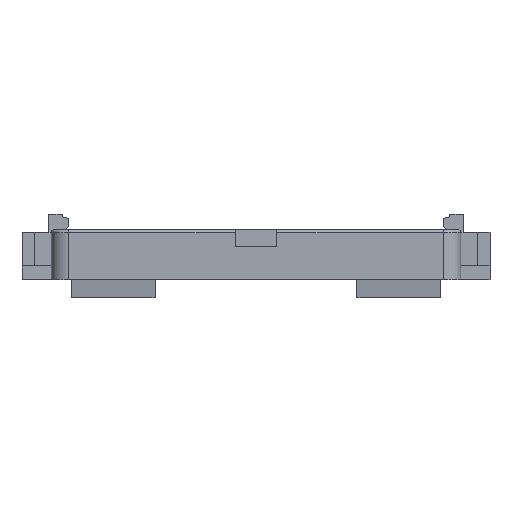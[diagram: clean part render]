
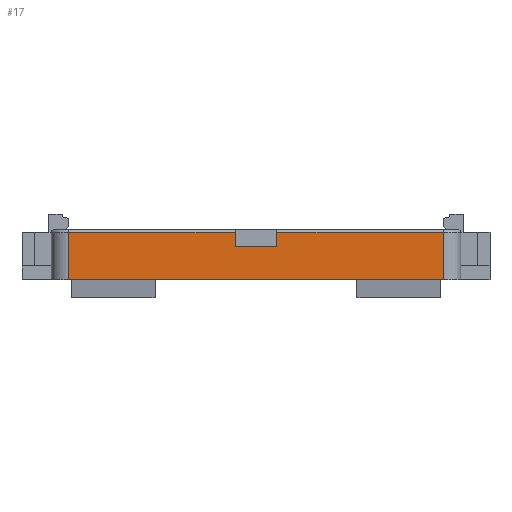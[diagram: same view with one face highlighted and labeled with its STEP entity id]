
A CAD part, left-side view. The second image highlights one B-rep face of the part: STEP entity #17.
In plain terms, the highlighted planar face has unit normal (-1, 0, 0).
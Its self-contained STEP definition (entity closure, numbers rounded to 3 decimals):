
#17 = ADVANCED_FACE('',(#18),#32,.F.);
#18 = FACE_BOUND('',#19,.F.);
#19 = EDGE_LOOP('',(#20,#55,#83,#111,#139,#167,#195,#223));
#20 = ORIENTED_EDGE('',*,*,#21,.F.);
#21 = EDGE_CURVE('',#22,#24,#26,.T.);
#22 = VERTEX_POINT('',#23);
#23 = CARTESIAN_POINT('',(-29.4,-26.9,6.8));
#24 = VERTEX_POINT('',#25);
#25 = CARTESIAN_POINT('',(-29.4,-3.,6.8));
#26 = SURFACE_CURVE('',#27,(#31,#43),.PCURVE_S1.);
#27 = LINE('',#28,#29);
#28 = CARTESIAN_POINT('',(-29.4,-26.9,6.8));
#29 = VECTOR('',#30,1.);
#30 = DIRECTION('',(0.,1.,0.));
#31 = PCURVE('',#32,#37);
#32 = PLANE('',#33);
#33 = AXIS2_PLACEMENT_3D('',#34,#35,#36);
#34 = CARTESIAN_POINT('',(-29.4,-29.4,0.));
#35 = DIRECTION('',(1.,0.,0.));
#36 = DIRECTION('',(0.,0.,1.));
#37 = DEFINITIONAL_REPRESENTATION('',(#38),#42);
#38 = LINE('',#39,#40);
#39 = CARTESIAN_POINT('',(6.8,-2.5));
#40 = VECTOR('',#41,1.);
#41 = DIRECTION('',(0.,-1.));
#42 = ( GEOMETRIC_REPRESENTATION_CONTEXT(2) 
PARAMETRIC_REPRESENTATION_CONTEXT() REPRESENTATION_CONTEXT('2D SPACE',''
  ) );
#43 = PCURVE('',#44,#49);
#44 = CYLINDRICAL_SURFACE('',#45,0.4);
#45 = AXIS2_PLACEMENT_3D('',#46,#47,#48);
#46 = CARTESIAN_POINT('',(-29.,-26.9,6.8));
#47 = DIRECTION('',(0.,1.,0.));
#48 = DIRECTION('',(-1.,0.,0.));
#49 = DEFINITIONAL_REPRESENTATION('',(#50),#54);
#50 = LINE('',#51,#52);
#51 = CARTESIAN_POINT('',(0.,0.));
#52 = VECTOR('',#53,1.);
#53 = DIRECTION('',(0.,1.));
#54 = ( GEOMETRIC_REPRESENTATION_CONTEXT(2) 
PARAMETRIC_REPRESENTATION_CONTEXT() REPRESENTATION_CONTEXT('2D SPACE',''
  ) );
#55 = ORIENTED_EDGE('',*,*,#56,.F.);
#56 = EDGE_CURVE('',#57,#22,#59,.T.);
#57 = VERTEX_POINT('',#58);
#58 = CARTESIAN_POINT('',(-29.4,-26.9,0.));
#59 = SURFACE_CURVE('',#60,(#64,#71),.PCURVE_S1.);
#60 = LINE('',#61,#62);
#61 = CARTESIAN_POINT('',(-29.4,-26.9,0.));
#62 = VECTOR('',#63,1.);
#63 = DIRECTION('',(0.,0.,1.));
#64 = PCURVE('',#32,#65);
#65 = DEFINITIONAL_REPRESENTATION('',(#66),#70);
#66 = LINE('',#67,#68);
#67 = CARTESIAN_POINT('',(0.,-2.5));
#68 = VECTOR('',#69,1.);
#69 = DIRECTION('',(1.,0.));
#70 = ( GEOMETRIC_REPRESENTATION_CONTEXT(2) 
PARAMETRIC_REPRESENTATION_CONTEXT() REPRESENTATION_CONTEXT('2D SPACE',''
  ) );
#71 = PCURVE('',#72,#77);
#72 = CYLINDRICAL_SURFACE('',#73,2.5);
#73 = AXIS2_PLACEMENT_3D('',#74,#75,#76);
#74 = CARTESIAN_POINT('',(-26.9,-26.9,0.));
#75 = DIRECTION('',(0.,0.,1.));
#76 = DIRECTION('',(-1.,0.,0.));
#77 = DEFINITIONAL_REPRESENTATION('',(#78),#82);
#78 = LINE('',#79,#80);
#79 = CARTESIAN_POINT('',(0.,0.));
#80 = VECTOR('',#81,1.);
#81 = DIRECTION('',(0.,1.));
#82 = ( GEOMETRIC_REPRESENTATION_CONTEXT(2) 
PARAMETRIC_REPRESENTATION_CONTEXT() REPRESENTATION_CONTEXT('2D SPACE',''
  ) );
#83 = ORIENTED_EDGE('',*,*,#84,.T.);
#84 = EDGE_CURVE('',#57,#85,#87,.T.);
#85 = VERTEX_POINT('',#86);
#86 = CARTESIAN_POINT('',(-29.4,26.9,0.));
#87 = SURFACE_CURVE('',#88,(#92,#99),.PCURVE_S1.);
#88 = LINE('',#89,#90);
#89 = CARTESIAN_POINT('',(-29.4,-29.4,0.));
#90 = VECTOR('',#91,1.);
#91 = DIRECTION('',(0.,1.,0.));
#92 = PCURVE('',#32,#93);
#93 = DEFINITIONAL_REPRESENTATION('',(#94),#98);
#94 = LINE('',#95,#96);
#95 = CARTESIAN_POINT('',(0.,0.));
#96 = VECTOR('',#97,1.);
#97 = DIRECTION('',(0.,-1.));
#98 = ( GEOMETRIC_REPRESENTATION_CONTEXT(2) 
PARAMETRIC_REPRESENTATION_CONTEXT() REPRESENTATION_CONTEXT('2D SPACE',''
  ) );
#99 = PCURVE('',#100,#105);
#100 = PLANE('',#101);
#101 = AXIS2_PLACEMENT_3D('',#102,#103,#104);
#102 = CARTESIAN_POINT('',(-29.4,-29.4,0.));
#103 = DIRECTION('',(0.,0.,1.));
#104 = DIRECTION('',(1.,0.,0.));
#105 = DEFINITIONAL_REPRESENTATION('',(#106),#110);
#106 = LINE('',#107,#108);
#107 = CARTESIAN_POINT('',(0.,0.));
#108 = VECTOR('',#109,1.);
#109 = DIRECTION('',(0.,1.));
#110 = ( GEOMETRIC_REPRESENTATION_CONTEXT(2) 
PARAMETRIC_REPRESENTATION_CONTEXT() REPRESENTATION_CONTEXT('2D SPACE',''
  ) );
#111 = ORIENTED_EDGE('',*,*,#112,.T.);
#112 = EDGE_CURVE('',#85,#113,#115,.T.);
#113 = VERTEX_POINT('',#114);
#114 = CARTESIAN_POINT('',(-29.4,26.9,6.8));
#115 = SURFACE_CURVE('',#116,(#120,#127),.PCURVE_S1.);
#116 = LINE('',#117,#118);
#117 = CARTESIAN_POINT('',(-29.4,26.9,0.));
#118 = VECTOR('',#119,1.);
#119 = DIRECTION('',(0.,0.,1.));
#120 = PCURVE('',#32,#121);
#121 = DEFINITIONAL_REPRESENTATION('',(#122),#126);
#122 = LINE('',#123,#124);
#123 = CARTESIAN_POINT('',(0.,-56.3));
#124 = VECTOR('',#125,1.);
#125 = DIRECTION('',(1.,0.));
#126 = ( GEOMETRIC_REPRESENTATION_CONTEXT(2) 
PARAMETRIC_REPRESENTATION_CONTEXT() REPRESENTATION_CONTEXT('2D SPACE',''
  ) );
#127 = PCURVE('',#128,#133);
#128 = CYLINDRICAL_SURFACE('',#129,2.5);
#129 = AXIS2_PLACEMENT_3D('',#130,#131,#132);
#130 = CARTESIAN_POINT('',(-26.9,26.9,0.));
#131 = DIRECTION('',(0.,0.,1.));
#132 = DIRECTION('',(-1.,0.,0.));
#133 = DEFINITIONAL_REPRESENTATION('',(#134),#138);
#134 = LINE('',#135,#136);
#135 = CARTESIAN_POINT('',(6.283,0.));
#136 = VECTOR('',#137,1.);
#137 = DIRECTION('',(-0.,1.));
#138 = ( GEOMETRIC_REPRESENTATION_CONTEXT(2) 
PARAMETRIC_REPRESENTATION_CONTEXT() REPRESENTATION_CONTEXT('2D SPACE',''
  ) );
#139 = ORIENTED_EDGE('',*,*,#140,.F.);
#140 = EDGE_CURVE('',#141,#113,#143,.T.);
#141 = VERTEX_POINT('',#142);
#142 = CARTESIAN_POINT('',(-29.4,3.,6.8));
#143 = SURFACE_CURVE('',#144,(#148,#155),.PCURVE_S1.);
#144 = LINE('',#145,#146);
#145 = CARTESIAN_POINT('',(-29.4,-26.9,6.8));
#146 = VECTOR('',#147,1.);
#147 = DIRECTION('',(0.,1.,0.));
#148 = PCURVE('',#32,#149);
#149 = DEFINITIONAL_REPRESENTATION('',(#150),#154);
#150 = LINE('',#151,#152);
#151 = CARTESIAN_POINT('',(6.8,-2.5));
#152 = VECTOR('',#153,1.);
#153 = DIRECTION('',(0.,-1.));
#154 = ( GEOMETRIC_REPRESENTATION_CONTEXT(2) 
PARAMETRIC_REPRESENTATION_CONTEXT() REPRESENTATION_CONTEXT('2D SPACE',''
  ) );
#155 = PCURVE('',#156,#161);
#156 = CYLINDRICAL_SURFACE('',#157,0.4);
#157 = AXIS2_PLACEMENT_3D('',#158,#159,#160);
#158 = CARTESIAN_POINT('',(-29.,-26.9,6.8));
#159 = DIRECTION('',(0.,1.,0.));
#160 = DIRECTION('',(-1.,0.,0.));
#161 = DEFINITIONAL_REPRESENTATION('',(#162),#166);
#162 = LINE('',#163,#164);
#163 = CARTESIAN_POINT('',(0.,0.));
#164 = VECTOR('',#165,1.);
#165 = DIRECTION('',(0.,1.));
#166 = ( GEOMETRIC_REPRESENTATION_CONTEXT(2) 
PARAMETRIC_REPRESENTATION_CONTEXT() REPRESENTATION_CONTEXT('2D SPACE',''
  ) );
#167 = ORIENTED_EDGE('',*,*,#168,.F.);
#168 = EDGE_CURVE('',#169,#141,#171,.T.);
#169 = VERTEX_POINT('',#170);
#170 = CARTESIAN_POINT('',(-29.4,3.,4.8));
#171 = SURFACE_CURVE('',#172,(#176,#183),.PCURVE_S1.);
#172 = LINE('',#173,#174);
#173 = CARTESIAN_POINT('',(-29.4,3.,2.4));
#174 = VECTOR('',#175,1.);
#175 = DIRECTION('',(0.,0.,1.));
#176 = PCURVE('',#32,#177);
#177 = DEFINITIONAL_REPRESENTATION('',(#178),#182);
#178 = LINE('',#179,#180);
#179 = CARTESIAN_POINT('',(2.4,-32.4));
#180 = VECTOR('',#181,1.);
#181 = DIRECTION('',(1.,0.));
#182 = ( GEOMETRIC_REPRESENTATION_CONTEXT(2) 
PARAMETRIC_REPRESENTATION_CONTEXT() REPRESENTATION_CONTEXT('2D SPACE',''
  ) );
#183 = PCURVE('',#184,#189);
#184 = PLANE('',#185);
#185 = AXIS2_PLACEMENT_3D('',#186,#187,#188);
#186 = CARTESIAN_POINT('',(-30.4,3.,4.8));
#187 = DIRECTION('',(0.,1.,0.));
#188 = DIRECTION('',(0.,0.,1.));
#189 = DEFINITIONAL_REPRESENTATION('',(#190),#194);
#190 = LINE('',#191,#192);
#191 = CARTESIAN_POINT('',(-2.4,1.));
#192 = VECTOR('',#193,1.);
#193 = DIRECTION('',(1.,0.));
#194 = ( GEOMETRIC_REPRESENTATION_CONTEXT(2) 
PARAMETRIC_REPRESENTATION_CONTEXT() REPRESENTATION_CONTEXT('2D SPACE',''
  ) );
#195 = ORIENTED_EDGE('',*,*,#196,.T.);
#196 = EDGE_CURVE('',#169,#197,#199,.T.);
#197 = VERTEX_POINT('',#198);
#198 = CARTESIAN_POINT('',(-29.4,-3.,4.8));
#199 = SURFACE_CURVE('',#200,(#204,#211),.PCURVE_S1.);
#200 = LINE('',#201,#202);
#201 = CARTESIAN_POINT('',(-29.4,-16.2,4.8));
#202 = VECTOR('',#203,1.);
#203 = DIRECTION('',(0.,-1.,0.));
#204 = PCURVE('',#32,#205);
#205 = DEFINITIONAL_REPRESENTATION('',(#206),#210);
#206 = LINE('',#207,#208);
#207 = CARTESIAN_POINT('',(4.8,-13.2));
#208 = VECTOR('',#209,1.);
#209 = DIRECTION('',(0.,1.));
#210 = ( GEOMETRIC_REPRESENTATION_CONTEXT(2) 
PARAMETRIC_REPRESENTATION_CONTEXT() REPRESENTATION_CONTEXT('2D SPACE',''
  ) );
#211 = PCURVE('',#212,#217);
#212 = PLANE('',#213);
#213 = AXIS2_PLACEMENT_3D('',#214,#215,#216);
#214 = CARTESIAN_POINT('',(-30.4,-3.,4.8));
#215 = DIRECTION('',(0.,0.,1.));
#216 = DIRECTION('',(1.,0.,0.));
#217 = DEFINITIONAL_REPRESENTATION('',(#218),#222);
#218 = LINE('',#219,#220);
#219 = CARTESIAN_POINT('',(1.,-13.2));
#220 = VECTOR('',#221,1.);
#221 = DIRECTION('',(0.,-1.));
#222 = ( GEOMETRIC_REPRESENTATION_CONTEXT(2) 
PARAMETRIC_REPRESENTATION_CONTEXT() REPRESENTATION_CONTEXT('2D SPACE',''
  ) );
#223 = ORIENTED_EDGE('',*,*,#224,.T.);
#224 = EDGE_CURVE('',#197,#24,#225,.T.);
#225 = SURFACE_CURVE('',#226,(#230,#237),.PCURVE_S1.);
#226 = LINE('',#227,#228);
#227 = CARTESIAN_POINT('',(-29.4,-3.,2.4));
#228 = VECTOR('',#229,1.);
#229 = DIRECTION('',(0.,0.,1.));
#230 = PCURVE('',#32,#231);
#231 = DEFINITIONAL_REPRESENTATION('',(#232),#236);
#232 = LINE('',#233,#234);
#233 = CARTESIAN_POINT('',(2.4,-26.4));
#234 = VECTOR('',#235,1.);
#235 = DIRECTION('',(1.,0.));
#236 = ( GEOMETRIC_REPRESENTATION_CONTEXT(2) 
PARAMETRIC_REPRESENTATION_CONTEXT() REPRESENTATION_CONTEXT('2D SPACE',''
  ) );
#237 = PCURVE('',#238,#243);
#238 = PLANE('',#239);
#239 = AXIS2_PLACEMENT_3D('',#240,#241,#242);
#240 = CARTESIAN_POINT('',(-30.4,-3.,4.8));
#241 = DIRECTION('',(0.,1.,0.));
#242 = DIRECTION('',(0.,0.,1.));
#243 = DEFINITIONAL_REPRESENTATION('',(#244),#248);
#244 = LINE('',#245,#246);
#245 = CARTESIAN_POINT('',(-2.4,1.));
#246 = VECTOR('',#247,1.);
#247 = DIRECTION('',(1.,0.));
#248 = ( GEOMETRIC_REPRESENTATION_CONTEXT(2) 
PARAMETRIC_REPRESENTATION_CONTEXT() REPRESENTATION_CONTEXT('2D SPACE',''
  ) );
